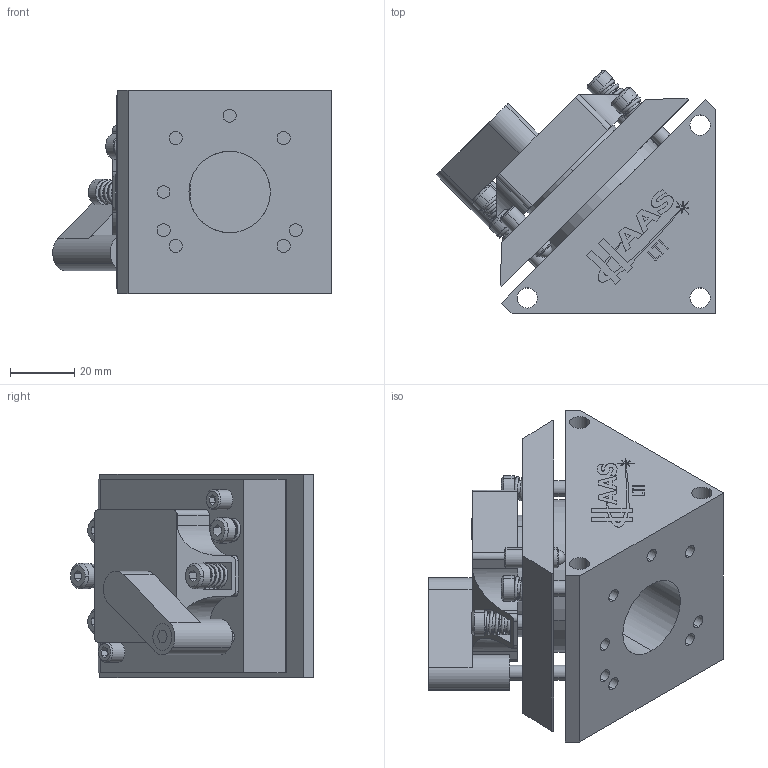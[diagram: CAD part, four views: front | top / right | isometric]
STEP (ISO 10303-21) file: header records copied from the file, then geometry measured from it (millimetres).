
FILE_DESCRIPTION (( 'STEP AP214' ), '1' );
FILE_NAME ('BBK-25-38064-WI.STEP', '2016-11-07T21:14:06', ( '' ), ( '' ), 'SwSTEP 2.0', 'SolidWorks 2016', '' );
FILE_SCHEMA (( 'AUTOMOTIVE_DESIGN' ));
Length unit declared in the file: inch
Products named in the file (1): BBK-25-38064-WI
Bounding box: 87.02 x 75.87 x 63.5 mm (x, y, z)
Surface area: 53310.3 mm2 (no closed solid volume)
Topology: 0 solids, 7 shells, 483 faces, 1363 edges, 965 vertices
Faces by surface type: cylinder 248, plane 191, cone 32, bspline 10, sphere 2
Entity records: 55978 total; most frequent: CARTESIAN_POINT 43682, ORIENTED_EDGE 2649, DIRECTION 2351, EDGE_CURVE 1352, VERTEX_POINT 961, AXIS2_PLACEMENT_3D 848, LINE 655, VECTOR 655
